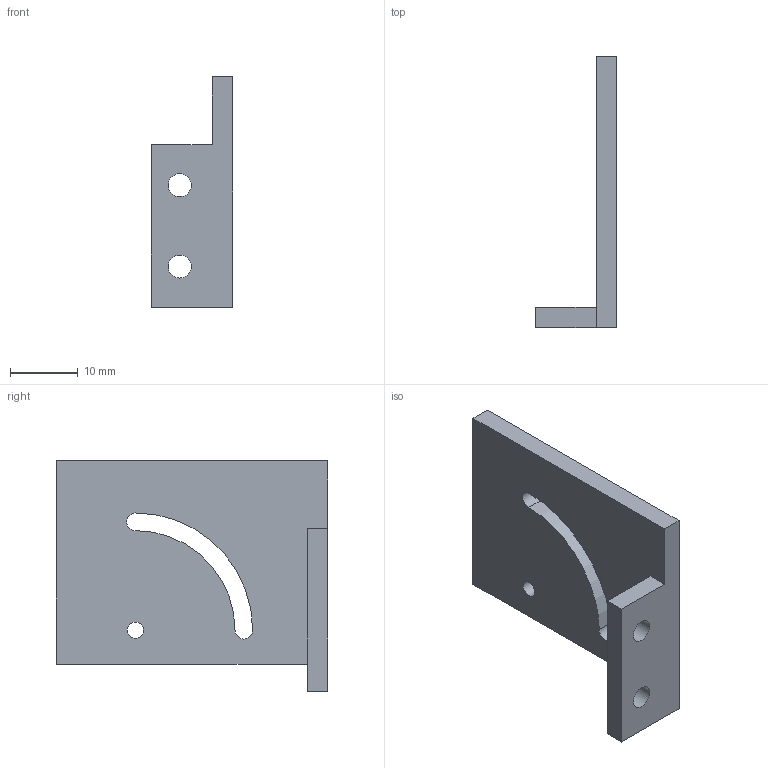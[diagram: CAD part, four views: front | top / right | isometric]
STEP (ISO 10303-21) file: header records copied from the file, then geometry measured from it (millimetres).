
FILE_DESCRIPTION(('Open CASCADE Model'),'2;1');
FILE_NAME('Open CASCADE Shape Model','2026-09-11T00:16:42',('Author'),( 'Open CASCADE'),'Open CASCADE STEP processor 7.9','Open CASCADE 7.9' ,'Unknown');
FILE_SCHEMA(('AUTOMOTIVE_DESIGN { 1 0 10303 214 1 1 1 1 }'));
Length unit declared in the file: millimetre
Products named in the file (1): Open CASCADE STEP translator 7.9 20
Bounding box: 12 x 40 x 34 mm (x, y, z)
Volume: 4004 mm3; surface area: 3429.3 mm2
Topology: 1 solids, 1 shells, 17 faces, 45 edges, 30 vertices
Faces by surface type: plane 10, cylinder 7
Full cylindrical faces by diameter (mm): 2.4 x1, 3.4 x2
Entity records: 1156 total; most frequent: CARTESIAN_POINT 207, DIRECTION 181, LINE 107, VECTOR 107, ORIENTED_EDGE 90, PCURVE 90, DEFINITIONAL_REPRESENTATION 90, EDGE_CURVE 45
